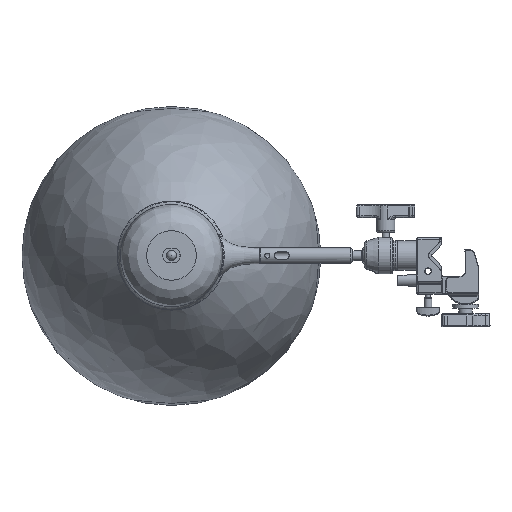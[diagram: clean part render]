
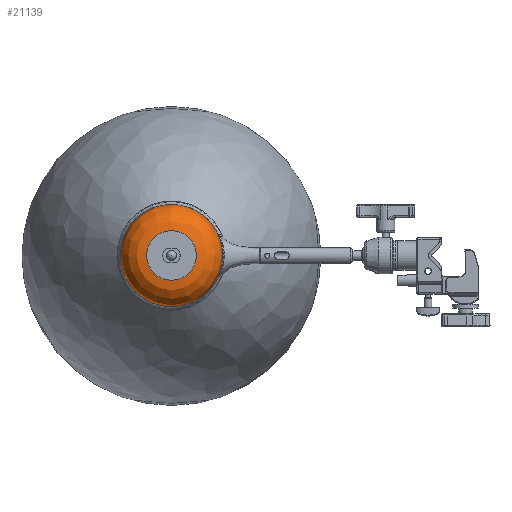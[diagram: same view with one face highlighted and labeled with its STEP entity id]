
A CAD part, top view. The second image highlights one B-rep face of the part: STEP entity #21139.
In plain terms, the highlighted free-form (B-spline) face has degree [2, 2] with [3, 9] control points.
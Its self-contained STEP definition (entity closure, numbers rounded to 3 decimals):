
#421=(
BOUNDED_SURFACE()
B_SPLINE_SURFACE(2,2,((#40279,#40280,#40281,#40282,#40283,#40284,#40285,
#40286,#40287),(#40288,#40289,#40290,#40291,#40292,#40293,#40294,#40295,
#40296),(#40297,#40298,#40299,#40300,#40301,#40302,#40303,#40304,#40305)),
 .UNSPECIFIED.,.F.,.T.,.F.)
B_SPLINE_SURFACE_WITH_KNOTS((3,3),(3,2,2,2,3),(0.,1.571),
(-3.142,-1.571,0.,1.571,3.142),
 .UNSPECIFIED.)
GEOMETRIC_REPRESENTATION_ITEM()
RATIONAL_B_SPLINE_SURFACE(((1.,0.707,1.,0.707,1.,
0.707,1.,0.707,1.),(0.707,0.5,0.707,
0.5,0.707,0.5,0.707,0.5,0.707),(1.,
0.707,1.,0.707,1.,0.707,1.,0.707,
1.)))
REPRESENTATION_ITEM('')
SURFACE()
);
#5454=FACE_OUTER_BOUND('',#6753,.T.);
#6753=EDGE_LOOP('',(#15981,#15982,#15983,#15984,#15985,#15986));
#8037=CIRCLE('',#22658,34.);
#8038=CIRCLE('',#22659,34.);
#8041=CIRCLE('',#22663,70.);
#8042=CIRCLE('',#22664,70.);
#8072=CIRCLE('',#22758,36.);
#9300=VERTEX_POINT('',#38643);
#9301=VERTEX_POINT('',#38644);
#9306=VERTEX_POINT('',#38656);
#9307=VERTEX_POINT('',#38657);
#11662=EDGE_CURVE('',#9300,#9301,#8037,.T.);
#11663=EDGE_CURVE('',#9301,#9300,#8038,.T.);
#11668=EDGE_CURVE('',#9306,#9307,#8041,.T.);
#11669=EDGE_CURVE('',#9307,#9306,#8042,.T.);
#11883=EDGE_CURVE('',#9301,#9307,#8072,.T.);
#15981=ORIENTED_EDGE('',*,*,#11662,.F.);
#15982=ORIENTED_EDGE('',*,*,#11663,.F.);
#15983=ORIENTED_EDGE('',*,*,#11883,.T.);
#15984=ORIENTED_EDGE('',*,*,#11669,.T.);
#15985=ORIENTED_EDGE('',*,*,#11668,.T.);
#15986=ORIENTED_EDGE('',*,*,#11883,.F.);
#21139=ADVANCED_FACE('',(#5454),#421,.F.);
#22658=AXIS2_PLACEMENT_3D('',#38645,#25863,#25864);
#22659=AXIS2_PLACEMENT_3D('',#38646,#25865,#25866);
#22663=AXIS2_PLACEMENT_3D('',#38658,#25875,#25876);
#22664=AXIS2_PLACEMENT_3D('',#38659,#25877,#25878);
#22758=AXIS2_PLACEMENT_3D('',#40306,#26178,#26179);
#25863=DIRECTION('center_axis',(0.,0.,
1.));
#25864=DIRECTION('ref_axis',(1.,0.,0.));
#25865=DIRECTION('center_axis',(0.,0.,
1.));
#25866=DIRECTION('ref_axis',(1.,0.,0.));
#25875=DIRECTION('center_axis',(0.,0.,
1.));
#25876=DIRECTION('ref_axis',(1.,0.,0.));
#25877=DIRECTION('center_axis',(0.,0.,
1.));
#25878=DIRECTION('ref_axis',(1.,0.,0.));
#26178=DIRECTION('center_axis',(-1.,0.,0.));
#26179=DIRECTION('ref_axis',(0.,1.,0.));
#38643=CARTESIAN_POINT('',(0.,-34.,139.3));
#38644=CARTESIAN_POINT('',(0.,34.,139.3));
#38645=CARTESIAN_POINT('Origin',(0.,0.,
139.3));
#38646=CARTESIAN_POINT('Origin',(0.,0.,
139.3));
#38656=CARTESIAN_POINT('',(0.,-70.,103.3));
#38657=CARTESIAN_POINT('',(0.,70.,103.3));
#38658=CARTESIAN_POINT('Origin',(0.,0.,
103.3));
#38659=CARTESIAN_POINT('Origin',(0.,0.,
103.3));
#40279=CARTESIAN_POINT('Ctrl Pts',(0.,70.,103.3));
#40280=CARTESIAN_POINT('Ctrl Pts',(-70.,70.,103.3));
#40281=CARTESIAN_POINT('Ctrl Pts',(-70.,0.,
103.3));
#40282=CARTESIAN_POINT('Ctrl Pts',(-70.,-70.,103.3));
#40283=CARTESIAN_POINT('Ctrl Pts',(0.,-70.,103.3));
#40284=CARTESIAN_POINT('Ctrl Pts',(70.,-70.,103.3));
#40285=CARTESIAN_POINT('Ctrl Pts',(70.,0.,
103.3));
#40286=CARTESIAN_POINT('Ctrl Pts',(70.,70.,103.3));
#40287=CARTESIAN_POINT('Ctrl Pts',(0.,70.,103.3));
#40288=CARTESIAN_POINT('Ctrl Pts',(0.,70.,139.3));
#40289=CARTESIAN_POINT('Ctrl Pts',(-70.,70.,139.3));
#40290=CARTESIAN_POINT('Ctrl Pts',(-70.,0.,
139.3));
#40291=CARTESIAN_POINT('Ctrl Pts',(-70.,-70.,139.3));
#40292=CARTESIAN_POINT('Ctrl Pts',(0.,-70.,139.3));
#40293=CARTESIAN_POINT('Ctrl Pts',(70.,-70.,139.3));
#40294=CARTESIAN_POINT('Ctrl Pts',(70.,0.,
139.3));
#40295=CARTESIAN_POINT('Ctrl Pts',(70.,70.,139.3));
#40296=CARTESIAN_POINT('Ctrl Pts',(0.,70.,139.3));
#40297=CARTESIAN_POINT('Ctrl Pts',(0.,34.,139.3));
#40298=CARTESIAN_POINT('Ctrl Pts',(-34.,34.,139.3));
#40299=CARTESIAN_POINT('Ctrl Pts',(-34.,0.,
139.3));
#40300=CARTESIAN_POINT('Ctrl Pts',(-34.,-34.,139.3));
#40301=CARTESIAN_POINT('Ctrl Pts',(0.,-34.,139.3));
#40302=CARTESIAN_POINT('Ctrl Pts',(34.,-34.,139.3));
#40303=CARTESIAN_POINT('Ctrl Pts',(34.,0.,
139.3));
#40304=CARTESIAN_POINT('Ctrl Pts',(34.,34.,139.3));
#40305=CARTESIAN_POINT('Ctrl Pts',(0.,34.,139.3));
#40306=CARTESIAN_POINT('Origin',(0.,34.,103.3));
